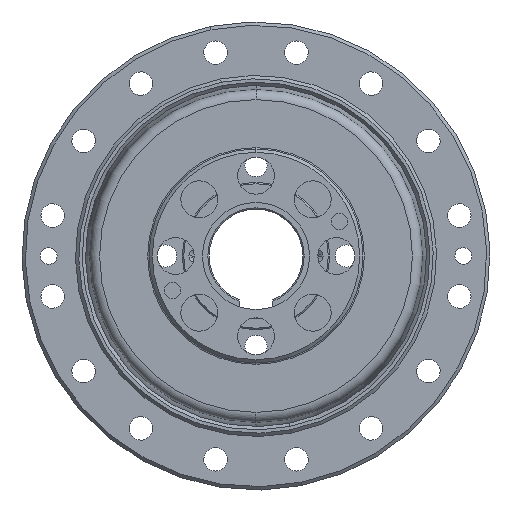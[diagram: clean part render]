
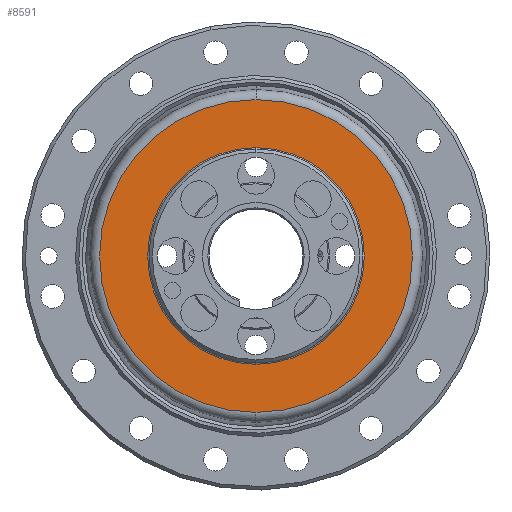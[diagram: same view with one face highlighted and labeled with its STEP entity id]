
A CAD part, left-side view. The second image highlights one B-rep face of the part: STEP entity #8591.
In plain terms, the highlighted planar face has unit normal (-1, 0, 0).
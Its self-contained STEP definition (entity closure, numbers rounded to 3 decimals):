
#26 = EDGE_LOOP ( 'NONE', ( #13190, #4944 ) ) ;
#694 = VERTEX_POINT ( 'NONE', #8263 ) ;
#1372 = AXIS2_PLACEMENT_3D ( 'NONE', #16570, #14075, #15035 ) ;
#1681 = EDGE_CURVE ( 'NONE', #12882, #4744, #5939, .T. ) ;
#1804 = CARTESIAN_POINT ( 'NONE',  ( 2.649, 0., -14.874 ) ) ;
#2903 = EDGE_CURVE ( 'NONE', #4744, #12882, #9700, .T. ) ;
#2913 = AXIS2_PLACEMENT_3D ( 'NONE', #7258, #10961, #11944 ) ;
#3135 = DIRECTION ( 'NONE',  ( 0., 0., -1. ) ) ;
#4484 = CIRCLE ( 'NONE', #6678, 16.2 ) ;
#4744 = VERTEX_POINT ( 'NONE', #7624 ) ;
#4944 = ORIENTED_EDGE ( 'NONE', *, *, #14840, .F. ) ;
#5939 = CIRCLE ( 'NONE', #1372, 23.385 ) ;
#6678 = AXIS2_PLACEMENT_3D ( 'NONE', #1804, #11380, #3135 ) ;
#6696 = CARTESIAN_POINT ( 'NONE',  ( 2.649, 0., -14.874 ) ) ;
#6944 = ORIENTED_EDGE ( 'NONE', *, *, #2903, .T. ) ;
#7066 = EDGE_LOOP ( 'NONE', ( #6944, #10330 ) ) ;
#7258 = CARTESIAN_POINT ( 'NONE',  ( 2.649, -23.385, -14.874 ) ) ;
#7353 = FACE_BOUND ( 'NONE', #26, .T. ) ;
#7624 = CARTESIAN_POINT ( 'NONE',  ( 2.649, 0., -38.259 ) ) ;
#8263 = CARTESIAN_POINT ( 'NONE',  ( 2.649, 0., -31.074 ) ) ;
#8591 = ADVANCED_FACE ( 'NONE', ( #7353, #10576 ), #10323, .F. ) ;
#8631 = VERTEX_POINT ( 'NONE', #15646 ) ;
#9413 = EDGE_CURVE ( 'NONE', #694, #8631, #9499, .T. ) ;
#9499 = CIRCLE ( 'NONE', #10263, 16.2 ) ;
#9700 = CIRCLE ( 'NONE', #12961, 23.385 ) ;
#10263 = AXIS2_PLACEMENT_3D ( 'NONE', #6696, #17149, #12488 ) ;
#10323 = PLANE ( 'NONE',  #2913 ) ;
#10330 = ORIENTED_EDGE ( 'NONE', *, *, #1681, .T. ) ;
#10576 = FACE_OUTER_BOUND ( 'NONE', #7066, .T. ) ;
#10961 = DIRECTION ( 'NONE',  ( 1., 0., 0. ) ) ;
#11266 = CARTESIAN_POINT ( 'NONE',  ( 2.649, 0., 8.511 ) ) ;
#11380 = DIRECTION ( 'NONE',  ( -1., 0., 0. ) ) ;
#11944 = DIRECTION ( 'NONE',  ( 0., 0., 1. ) ) ;
#12488 = DIRECTION ( 'NONE',  ( 0., 0., -1. ) ) ;
#12882 = VERTEX_POINT ( 'NONE', #11266 ) ;
#12961 = AXIS2_PLACEMENT_3D ( 'NONE', #14430, #14596, #14656 ) ;
#13190 = ORIENTED_EDGE ( 'NONE', *, *, #9413, .F. ) ;
#14075 = DIRECTION ( 'NONE',  ( -1., 0., 0. ) ) ;
#14430 = CARTESIAN_POINT ( 'NONE',  ( 2.649, 0., -14.874 ) ) ;
#14596 = DIRECTION ( 'NONE',  ( -1., 0., 0. ) ) ;
#14656 = DIRECTION ( 'NONE',  ( 0., 0., -1. ) ) ;
#14840 = EDGE_CURVE ( 'NONE', #8631, #694, #4484, .T. ) ;
#15035 = DIRECTION ( 'NONE',  ( 0., 0., -1. ) ) ;
#15646 = CARTESIAN_POINT ( 'NONE',  ( 2.649, 0., 1.326 ) ) ;
#16570 = CARTESIAN_POINT ( 'NONE',  ( 2.649, 0., -14.874 ) ) ;
#17149 = DIRECTION ( 'NONE',  ( -1., 0., 0. ) ) ;
